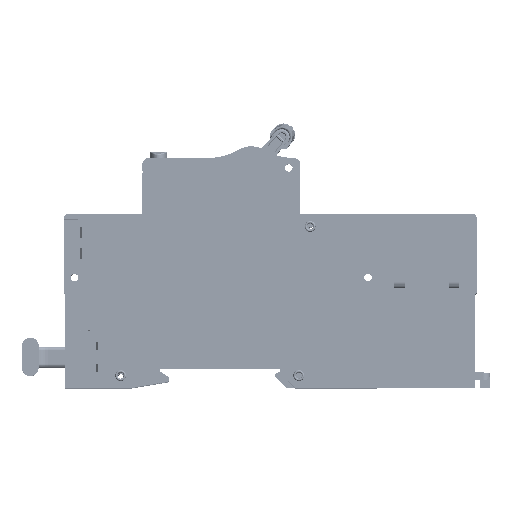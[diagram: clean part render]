
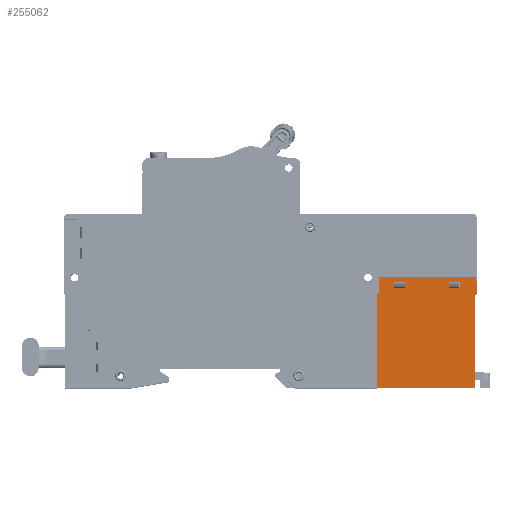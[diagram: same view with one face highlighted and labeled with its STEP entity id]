
A CAD part, top view. The second image highlights one B-rep face of the part: STEP entity #255062.
In plain terms, the highlighted planar face has unit normal (0, 0, 1).
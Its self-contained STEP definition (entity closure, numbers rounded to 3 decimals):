
#3491 = VERTEX_POINT ( 'NONE', #63552 ) ;
#4136 = VECTOR ( 'NONE', #306696, 1000. ) ;
#11135 = EDGE_CURVE ( 'NONE', #164676, #197075, #314078, .T. ) ;
#13142 = EDGE_LOOP ( 'NONE', ( #191351, #343796, #682040, #531178, #118866, #325364, #326577, #64548, #236215, #784903 ) ) ;
#16322 = EDGE_CURVE ( 'NONE', #513718, #295439, #143722, .T. ) ;
#17915 = VERTEX_POINT ( 'NONE', #237601 ) ;
#21576 = VECTOR ( 'NONE', #379597, 1000. ) ;
#23455 = LINE ( 'NONE', #186542, #190347 ) ;
#29054 = DIRECTION ( 'NONE',  ( -0.707, 0.707, 0. ) ) ;
#32604 = CARTESIAN_POINT ( 'NONE',  ( 42.78, -13.268, 142.164 ) ) ;
#36249 = DIRECTION ( 'NONE',  ( -1., 0., 0. ) ) ;
#42438 = FACE_OUTER_BOUND ( 'NONE', #13142, .T. ) ;
#42854 = CARTESIAN_POINT ( 'NONE',  ( 58.83, -13.268, 142.164 ) ) ;
#49034 = CARTESIAN_POINT ( 'NONE',  ( 61.48, -13.268, 142.164 ) ) ;
#49865 = CARTESIAN_POINT ( 'NONE',  ( 66.28, -11.368, 142.164 ) ) ;
#51891 = CARTESIAN_POINT ( 'NONE',  ( 65.88, -14.968, 142.164 ) ) ;
#63552 = CARTESIAN_POINT ( 'NONE',  ( 38.38, -14.568, 142.164 ) ) ;
#64548 = ORIENTED_EDGE ( 'NONE', *, *, #11135, .F. ) ;
#73011 = ORIENTED_EDGE ( 'NONE', *, *, #666099, .F. ) ;
#77424 = CARTESIAN_POINT ( 'NONE',  ( 66.28, -14.568, 142.164 ) ) ;
#78155 = CARTESIAN_POINT ( 'NONE',  ( 38.38, -9.968, 142.164 ) ) ;
#90227 = ORIENTED_EDGE ( 'NONE', *, *, #722881, .F. ) ;
#90835 = LINE ( 'NONE', #606536, #424429 ) ;
#96890 = VERTEX_POINT ( 'NONE', #638217 ) ;
#105879 = VECTOR ( 'NONE', #380523, 1000. ) ;
#105886 = CARTESIAN_POINT ( 'NONE',  ( 66.08, -9.968, 142.164 ) ) ;
#106712 = EDGE_CURVE ( 'NONE', #853066, #476073, #785502, .T. ) ;
#118866 = ORIENTED_EDGE ( 'NONE', *, *, #350837, .T. ) ;
#122880 = VECTOR ( 'NONE', #29054, 1000. ) ;
#125123 = VECTOR ( 'NONE', #571218, 1000. ) ;
#138956 = LINE ( 'NONE', #695939, #336990 ) ;
#139311 = DIRECTION ( 'NONE',  ( 0., -1., 0. ) ) ;
#143722 = LINE ( 'NONE', #788309, #122880 ) ;
#147569 = FACE_BOUND ( 'NONE', #662469, .T. ) ;
#147613 = LINE ( 'NONE', #42854, #105879 ) ;
#156017 = EDGE_LOOP ( 'NONE', ( #542999, #216268, #579673, #236054 ) ) ;
#164676 = VERTEX_POINT ( 'NONE', #624766 ) ;
#165736 = CARTESIAN_POINT ( 'NONE',  ( 43.33, -13.268, 142.164 ) ) ;
#166339 = CARTESIAN_POINT ( 'NONE',  ( 38.38, -9.968, 142.164 ) ) ;
#169537 = LINE ( 'NONE', #165736, #356954 ) ;
#175756 = VECTOR ( 'NONE', #861027, 1000. ) ;
#184522 = VECTOR ( 'NONE', #376636, 1000. ) ;
#186542 = CARTESIAN_POINT ( 'NONE',  ( 66.08, -9.968, 142.164 ) ) ;
#190347 = VECTOR ( 'NONE', #508955, 1000. ) ;
#191351 = ORIENTED_EDGE ( 'NONE', *, *, #556384, .T. ) ;
#193524 = DIRECTION ( 'NONE',  ( -0.707, -0.707, 0. ) ) ;
#196362 = VERTEX_POINT ( 'NONE', #722744 ) ;
#197075 = VERTEX_POINT ( 'NONE', #660358 ) ;
#207788 = CARTESIAN_POINT ( 'NONE',  ( 45.98, -11.368, 142.164 ) ) ;
#216268 = ORIENTED_EDGE ( 'NONE', *, *, #461838, .F. ) ;
#219201 = LINE ( 'NONE', #534831, #751283 ) ;
#221255 = DIRECTION ( 'NONE',  ( 0., -1., 0. ) ) ;
#228057 = VERTEX_POINT ( 'NONE', #105886 ) ;
#235693 = DIRECTION ( 'NONE',  ( 1., 0., 0. ) ) ;
#236054 = ORIENTED_EDGE ( 'NONE', *, *, #348501, .F. ) ;
#236215 = ORIENTED_EDGE ( 'NONE', *, *, #568169, .F. ) ;
#237601 = CARTESIAN_POINT ( 'NONE',  ( 58.28, -13.268, 142.164 ) ) ;
#240026 = LINE ( 'NONE', #429054, #647448 ) ;
#255062 = ADVANCED_FACE ( 'NONE', ( #147569, #637710, #42438 ), #488390, .F. ) ;
#274818 = LINE ( 'NONE', #507620, #4136 ) ;
#275321 = EDGE_CURVE ( 'NONE', #228057, #295439, #23455, .T. ) ;
#295439 = VERTEX_POINT ( 'NONE', #838736 ) ;
#306696 = DIRECTION ( 'NONE',  ( 0., -1., 0. ) ) ;
#314078 = LINE ( 'NONE', #636287, #470469 ) ;
#315790 = AXIS2_PLACEMENT_3D ( 'NONE', #575549, #773948, #712601 ) ;
#325364 = ORIENTED_EDGE ( 'NONE', *, *, #436547, .T. ) ;
#326577 = ORIENTED_EDGE ( 'NONE', *, *, #522642, .T. ) ;
#336990 = VECTOR ( 'NONE', #221255, 1000. ) ;
#340424 = EDGE_CURVE ( 'NONE', #476073, #599893, #90835, .T. ) ;
#343796 = ORIENTED_EDGE ( 'NONE', *, *, #16322, .T. ) ;
#348501 = EDGE_CURVE ( 'NONE', #798204, #196362, #354897, .T. ) ;
#350837 = EDGE_CURVE ( 'NONE', #365665, #3491, #675583, .T. ) ;
#354897 = LINE ( 'NONE', #452307, #21576 ) ;
#356954 = VECTOR ( 'NONE', #235693, 1000. ) ;
#365665 = VERTEX_POINT ( 'NONE', #166339 ) ;
#369951 = EDGE_CURVE ( 'NONE', #365665, #228057, #426695, .T. ) ;
#376636 = DIRECTION ( 'NONE',  ( 0., 1., 0. ) ) ;
#379597 = DIRECTION ( 'NONE',  ( -1., 0., 0. ) ) ;
#380523 = DIRECTION ( 'NONE',  ( 1., 0., 0. ) ) ;
#399651 = DIRECTION ( 'NONE',  ( -1., 0., 0. ) ) ;
#405848 = VERTEX_POINT ( 'NONE', #77424 ) ;
#415037 = VERTEX_POINT ( 'NONE', #590515 ) ;
#417015 = LINE ( 'NONE', #32604, #125123 ) ;
#424429 = VECTOR ( 'NONE', #399651, 1000. ) ;
#426695 = LINE ( 'NONE', #467345, #175756 ) ;
#429054 = CARTESIAN_POINT ( 'NONE',  ( 66.28, -36.168, 142.164 ) ) ;
#436547 = EDGE_CURVE ( 'NONE', #3491, #415037, #219201, .T. ) ;
#445733 = CARTESIAN_POINT ( 'NONE',  ( 58.28, -13.268, 142.164 ) ) ;
#452307 = CARTESIAN_POINT ( 'NONE',  ( 43.33, -11.368, 142.164 ) ) ;
#461838 = EDGE_CURVE ( 'NONE', #96890, #625648, #169537, .T. ) ;
#467345 = CARTESIAN_POINT ( 'NONE',  ( 65.88, -9.968, 142.164 ) ) ;
#470469 = VECTOR ( 'NONE', #36249, 1000. ) ;
#476073 = VERTEX_POINT ( 'NONE', #752839 ) ;
#487309 = DIRECTION ( 'NONE',  ( 0., 1., 0. ) ) ;
#488390 = PLANE ( 'NONE',  #315790 ) ;
#497101 = LINE ( 'NONE', #773124, #184522 ) ;
#505852 = VECTOR ( 'NONE', #193524, 1000. ) ;
#507620 = CARTESIAN_POINT ( 'NONE',  ( 65.88, -9.968, 142.164 ) ) ;
#508955 = DIRECTION ( 'NONE',  ( 0., -1., 0. ) ) ;
#513718 = VERTEX_POINT ( 'NONE', #49865 ) ;
#514782 = DIRECTION ( 'NONE',  ( 0., 1., 0. ) ) ;
#521891 = EDGE_CURVE ( 'NONE', #405848, #847088, #693997, .T. ) ;
#522642 = EDGE_CURVE ( 'NONE', #415037, #197075, #138956, .T. ) ;
#531178 = ORIENTED_EDGE ( 'NONE', *, *, #369951, .F. ) ;
#534831 = CARTESIAN_POINT ( 'NONE',  ( 37.98, -14.968, 142.164 ) ) ;
#542999 = ORIENTED_EDGE ( 'NONE', *, *, #865115, .F. ) ;
#552572 = VECTOR ( 'NONE', #778093, 1000. ) ;
#556264 = ORIENTED_EDGE ( 'NONE', *, *, #106712, .F. ) ;
#556384 = EDGE_CURVE ( 'NONE', #405848, #513718, #240026, .T. ) ;
#568169 = EDGE_CURVE ( 'NONE', #847088, #164676, #274818, .T. ) ;
#571218 = DIRECTION ( 'NONE',  ( 0., -1., 0. ) ) ;
#575549 = CARTESIAN_POINT ( 'NONE',  ( 65.88, -9.968, 142.164 ) ) ;
#579673 = ORIENTED_EDGE ( 'NONE', *, *, #780051, .F. ) ;
#590515 = CARTESIAN_POINT ( 'NONE',  ( 37.98, -14.968, 142.164 ) ) ;
#599893 = VERTEX_POINT ( 'NONE', #678817 ) ;
#606536 = CARTESIAN_POINT ( 'NONE',  ( 58.83, -11.368, 142.164 ) ) ;
#624766 = CARTESIAN_POINT ( 'NONE',  ( 65.88, -41.568, 142.164 ) ) ;
#625648 = VERTEX_POINT ( 'NONE', #768772 ) ;
#636287 = CARTESIAN_POINT ( 'NONE',  ( 65.88, -41.568, 142.164 ) ) ;
#637710 = FACE_BOUND ( 'NONE', #156017, .T. ) ;
#638217 = CARTESIAN_POINT ( 'NONE',  ( 42.78, -13.268, 142.164 ) ) ;
#647448 = VECTOR ( 'NONE', #487309, 1000. ) ;
#660358 = CARTESIAN_POINT ( 'NONE',  ( 37.98, -41.568, 142.164 ) ) ;
#662469 = EDGE_LOOP ( 'NONE', ( #556264, #73011, #90227, #839616 ) ) ;
#666099 = EDGE_CURVE ( 'NONE', #17915, #853066, #147613, .T. ) ;
#669034 = DIRECTION ( 'NONE',  ( -0.707, -0.707, 0. ) ) ;
#675583 = LINE ( 'NONE', #78155, #696366 ) ;
#678817 = CARTESIAN_POINT ( 'NONE',  ( 58.28, -11.368, 142.164 ) ) ;
#682040 = ORIENTED_EDGE ( 'NONE', *, *, #275321, .F. ) ;
#693997 = LINE ( 'NONE', #858139, #505852 ) ;
#695939 = CARTESIAN_POINT ( 'NONE',  ( 37.98, -36.168, 142.164 ) ) ;
#696366 = VECTOR ( 'NONE', #139311, 1000. ) ;
#712601 = DIRECTION ( 'NONE',  ( 0., -1., 0. ) ) ;
#722744 = CARTESIAN_POINT ( 'NONE',  ( 42.78, -11.368, 142.164 ) ) ;
#722881 = EDGE_CURVE ( 'NONE', #599893, #17915, #740919, .T. ) ;
#737751 = CARTESIAN_POINT ( 'NONE',  ( 61.48, -13.268, 142.164 ) ) ;
#740919 = LINE ( 'NONE', #445733, #552572 ) ;
#751283 = VECTOR ( 'NONE', #669034, 1000. ) ;
#752839 = CARTESIAN_POINT ( 'NONE',  ( 61.48, -11.368, 142.164 ) ) ;
#754619 = VECTOR ( 'NONE', #514782, 1000. ) ;
#768772 = CARTESIAN_POINT ( 'NONE',  ( 45.98, -13.268, 142.164 ) ) ;
#773124 = CARTESIAN_POINT ( 'NONE',  ( 45.98, -13.268, 142.164 ) ) ;
#773948 = DIRECTION ( 'NONE',  ( 0., 0., -1. ) ) ;
#778093 = DIRECTION ( 'NONE',  ( 0., -1., 0. ) ) ;
#780051 = EDGE_CURVE ( 'NONE', #196362, #96890, #417015, .T. ) ;
#784903 = ORIENTED_EDGE ( 'NONE', *, *, #521891, .F. ) ;
#785502 = LINE ( 'NONE', #49034, #754619 ) ;
#788309 = CARTESIAN_POINT ( 'NONE',  ( 65.38, -10.468, 142.164 ) ) ;
#798204 = VERTEX_POINT ( 'NONE', #207788 ) ;
#838736 = CARTESIAN_POINT ( 'NONE',  ( 66.08, -11.168, 142.164 ) ) ;
#839616 = ORIENTED_EDGE ( 'NONE', *, *, #340424, .F. ) ;
#847088 = VERTEX_POINT ( 'NONE', #51891 ) ;
#853066 = VERTEX_POINT ( 'NONE', #737751 ) ;
#858139 = CARTESIAN_POINT ( 'NONE',  ( 48.405, -32.443, 142.164 ) ) ;
#861027 = DIRECTION ( 'NONE',  ( 1., 0., 0. ) ) ;
#865115 = EDGE_CURVE ( 'NONE', #625648, #798204, #497101, .T. ) ;
